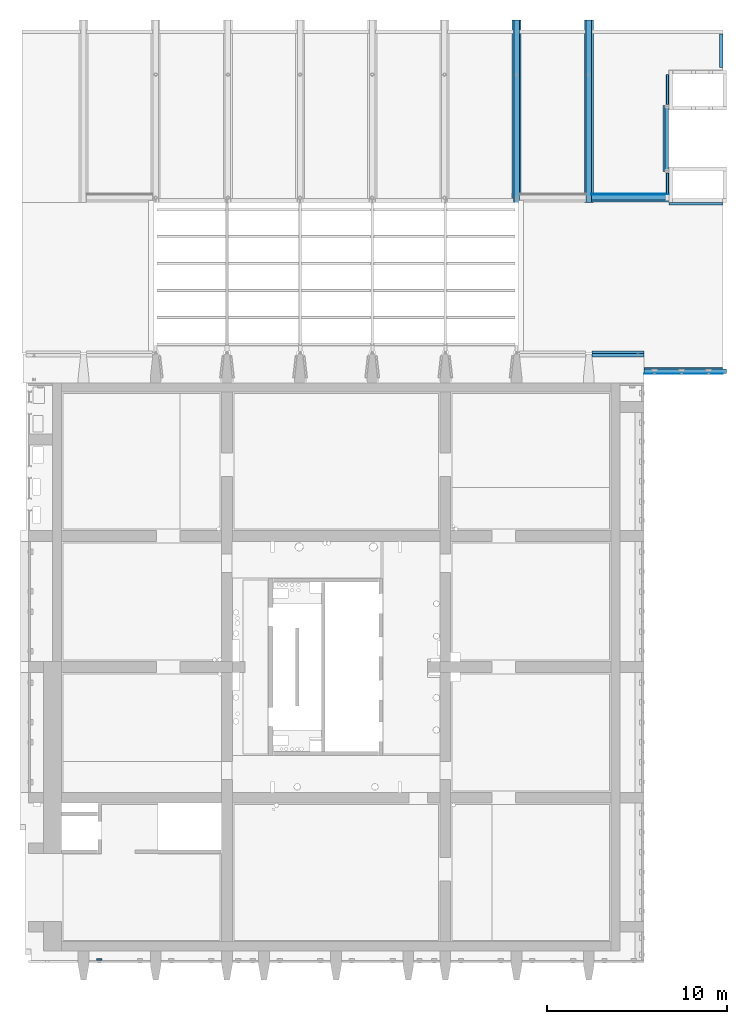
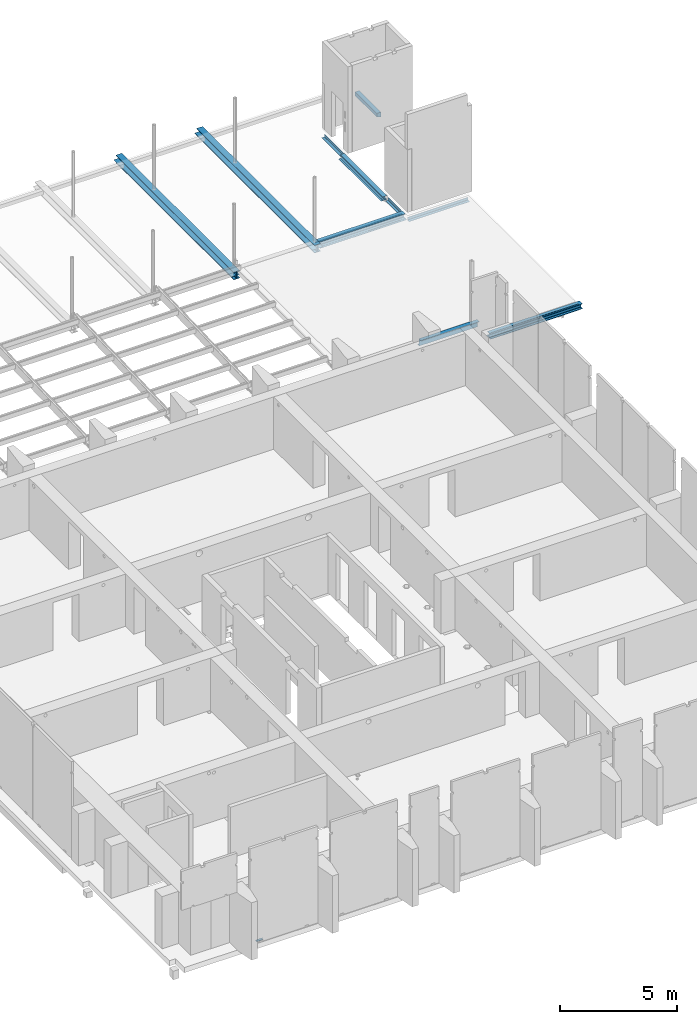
# One storey, part 14 of 31: 14 beams.
"""IFC2X3 building model written with IfcOpenShell, lengths in millimetres."""

from ifc_helpers import new_model, entity, si_unit, converted_unit, derived_unit, direction, frame, frame_2d, origin, origin_2d_with_axis, place, context, subcontext, project, spatial, polyline, circle_curve, parameter, trimmed, segment, composite_curve, rectangle, i_section, outline, extrude, source, transform, mapped, material, type_object, type_shapes, element, save


model = new_model("IFC2X3")

# Units and contexts
model_context = context("Model", 3, precision=0.01, world=origin(), true_north=direction((6.12303176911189e-17, 1.0)))
body_context = subcontext(model_context, "Body", "Model", "MODEL_VIEW")
ifc_project = project(units=[si_unit("LENGTHUNIT", "METRE", prefix="MILLI"), si_unit("AREAUNIT", "SQUARE_METRE"), si_unit("VOLUMEUNIT", "CUBIC_METRE"), converted_unit("PLANEANGLEUNIT", "DEGREE", entity("IfcRatioMeasure", 0.0174532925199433), si_unit("PLANEANGLEUNIT", "RADIAN"), dimensions=[0, 0, 0, 0, 0, 0, 0]), si_unit("MASSUNIT", "GRAM", prefix="KILO"), derived_unit("MASSDENSITYUNIT", [(si_unit("MASSUNIT", "GRAM", prefix="KILO"), 1), (si_unit("LENGTHUNIT", "METRE"), -3)]), si_unit("TIMEUNIT", "SECOND"), si_unit("FREQUENCYUNIT", "HERTZ"), si_unit("THERMODYNAMICTEMPERATUREUNIT", "DEGREE_CELSIUS"), derived_unit("THERMALTRANSMITTANCEUNIT", [(si_unit("MASSUNIT", "GRAM", prefix="KILO"), 1), (si_unit("THERMODYNAMICTEMPERATUREUNIT", "KELVIN"), -1), (si_unit("TIMEUNIT", "SECOND"), -3)]), derived_unit("VOLUMETRICFLOWRATEUNIT", [(si_unit("LENGTHUNIT", "METRE"), 3), (si_unit("TIMEUNIT", "SECOND"), -1)]), si_unit("ELECTRICCURRENTUNIT", "AMPERE"), si_unit("ELECTRICVOLTAGEUNIT", "VOLT"), si_unit("POWERUNIT", "WATT"), si_unit("FORCEUNIT", "NEWTON", prefix="KILO"), si_unit("ILLUMINANCEUNIT", "LUX"), si_unit("LUMINOUSFLUXUNIT", "LUMEN"), si_unit("LUMINOUSINTENSITYUNIT", "CANDELA"), derived_unit("USERDEFINED", [(si_unit("MASSUNIT", "GRAM", prefix="KILO"), -1), (si_unit("LENGTHUNIT", "METRE"), -2), (si_unit("TIMEUNIT", "SECOND"), 3), (si_unit("LUMINOUSFLUXUNIT", "LUMEN"), 1)]), derived_unit("LINEARVELOCITYUNIT", [(si_unit("LENGTHUNIT", "METRE"), 1), (si_unit("TIMEUNIT", "SECOND"), -1)]), si_unit("PRESSUREUNIT", "PASCAL"), derived_unit("USERDEFINED", [(si_unit("LENGTHUNIT", "METRE"), -2), (si_unit("MASSUNIT", "GRAM", prefix="KILO"), 1), (si_unit("TIMEUNIT", "SECOND"), -2)])], contexts=[model_context])

# Site, building, storey
site_placement = place(None, origin())
site = spatial("IfcSite", under=ifc_project, at=site_placement, Name="Default", CompositionType="ELEMENT")
building_placement = place(site_placement, origin())
building = spatial("IfcBuilding", under=site, at=building_placement, Name="niet gebruiken", CompositionType="ELEMENT")
storey_placement = place(building_placement, frame((0.0, 0.0, 12000.0)))
storey = spatial("IfcBuildingStorey", under=building, at=storey_placement, Name="03 derde verdieping", CompositionType="ELEMENT", Elevation=12000.0)

# Beams
ifc_material_1 = material(Name="NLRS_h2_staal")
beam_type_1 = type_object("IfcBeamType", Name="ligger HEB 400", PredefinedType="BEAM", material=ifc_material_1)
shared_shape_1 = source(origin(), body_context, "Body", "SweptSolid", [
    extrude(outline(polyline([(-6608.33333333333, -128.833333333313), (3491.66666666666, -128.833333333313), (3491.66666666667, 14.4166666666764), (3116.66666666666, 14.4166666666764), (3116.66666666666, 114.416666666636), (-6608.33333333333, 114.416666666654), (-6608.33333333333, -128.833333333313)])), frame((151885.583333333, 46741.6666666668, 13120.0), z_axis=(0.0, 0.0, 1.0), x_axis=(0.0, -1.0, 0.0)), (0.0, 0.0, 1.0), 15.0000000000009),
    extrude(rectangle(XDim=10100.0, YDim=243.249999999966, at=frame_2d((4.54747350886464e-12, 1.73230318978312e-11), x_axis=(1.0, 0.0))), frame((151621.625, 48300.0, 13120.0), z_axis=(0.0, 0.0, 1.0), x_axis=(0.0, -1.0, 0.0)), (0.0, 0.0, 1.0), 14.9999999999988),
    extrude(outline(composite_curve([segment(polyline([(-150.0, -176.0), (-150.0, -200.0)]), True, "CONTINUOUS"), segment(polyline([(-150.0, -200.0), (150.0, -200.0)]), True, "CONTINUOUS"), segment(polyline([(150.0, -200.0), (150.0, -176.0)]), True, "CONTINUOUS"), segment(polyline([(150.0, -176.0), (33.7499999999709, -176.0)]), True, "CONTINUOUS"), segment(trimmed(circle_curve(frame_2d((33.7499999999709, -149.0), x_axis=(-1.0, 0.0)), 27.0), [parameter(2.54444374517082e-13)], [parameter(90.0000000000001)], True, "PARAMETER"), False, "CONTINUOUS"), segment(polyline([(6.74999999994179, -149.0), (6.74999999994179, 149.0)]), True, "CONTINUOUS"), segment(trimmed(circle_curve(frame_2d((33.7499999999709, 149.0), x_axis=(0.0, 1.0)), 27.0), [parameter(3.05333249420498e-13)], [parameter(90.0000000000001)], True, "PARAMETER"), False, "CONTINUOUS"), segment(polyline([(33.7499999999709, 176.0), (150.0, 176.0)]), True, "CONTINUOUS"), segment(polyline([(150.0, 176.0), (150.0, 200.0)]), True, "CONTINUOUS"), segment(polyline([(150.0, 200.0), (-150.0, 200.0)]), True, "CONTINUOUS"), segment(polyline([(-150.0, 200.0), (-150.0, 176.0)]), True, "CONTINUOUS"), segment(polyline([(-150.0, 176.0), (-33.7500000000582, 176.0)]), True, "CONTINUOUS"), segment(trimmed(circle_curve(frame_2d((-33.7500000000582, 149.0), x_axis=(1.0, 0.0)), 27.0), [parameter(0.0)], [parameter(90.0000000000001)], True, "PARAMETER"), False, "CONTINUOUS"), segment(polyline([(-6.7500000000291, 149.0), (-6.7500000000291, -149.0)]), True, "CONTINUOUS"), segment(trimmed(circle_curve(frame_2d((-33.7500000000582, -149.0), x_axis=(0.0, -1.0)), 27.0), [parameter(5.08888749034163e-14)], [parameter(90.0000000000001)], True, "PARAMETER"), False, "CONTINUOUS"), segment(polyline([(-33.7500000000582, -176.0), (-150.0, -176.0)]), True, "CONTINUOUS")], self_intersect=False)), frame((151750.0, 43250.0, 13140.0), z_axis=(0.0, -1.0, 0.0), x_axis=(-1.0, 0.0, 0.0)), (0.0, 0.0, -1.0), 10100.0),
])
type_shapes(beam_type_1, [shared_shape_1])
beam_1_placement = place(storey_placement, frame((0.0, 0.0, -12000.0)))
element("IfcBeam", 1, at=beam_1_placement, inside=storey, type_object=beam_type_1, material=ifc_material_1, Name="NLRS_28.11_SF_WPB_stalen ligger HEB met stripstaal_gen:ligger HEB 400", ObjectType="ligger HEB 400", context=body_context, shape_type="MappedRepresentation", body=[
    mapped(shared_shape_1, transform((0.0, 0.0, 0.0), scale=1.0)),
])
beam_type_2 = type_object("IfcBeamType", Name="ligger HEB 400", PredefinedType="BEAM", material=ifc_material_1)
shared_shape_2 = source(origin(), body_context, "Body", "SweptSolid", [
    extrude(rectangle(XDim=10100.0, YDim=243.249999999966, at=frame_2d((-4.54747350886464e-12, -8.66151594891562e-12), x_axis=(1.0, 0.0))), frame((155878.375, 48300.0, 13120.0), z_axis=(0.0, 0.0, 1.0), x_axis=(0.0, -1.0, 0.0)), (0.0, 0.0, 1.0), 15.0000000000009),
    extrude(rectangle(XDim=10100.0, YDim=243.249999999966, at=frame_2d((-4.54747350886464e-12, 0.0), x_axis=(1.0, 0.0))), frame((155621.625, 48300.0, 13120.0), z_axis=(0.0, 0.0, 1.0), x_axis=(0.0, -1.0, 0.0)), (0.0, 0.0, 1.0), 14.9999999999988),
    extrude(outline(composite_curve([segment(polyline([(-150.0, -176.0), (-150.0, -200.0)]), True, "CONTINUOUS"), segment(polyline([(-150.0, -200.0), (150.0, -200.0)]), True, "CONTINUOUS"), segment(polyline([(150.0, -200.0), (150.0, -176.0)]), True, "CONTINUOUS"), segment(polyline([(150.0, -176.0), (33.7500000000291, -176.0)]), True, "CONTINUOUS"), segment(trimmed(circle_curve(frame_2d((33.7500000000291, -149.0), x_axis=(-1.0, 0.0)), 27.0), [parameter(2.54444374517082e-13)], [parameter(90.0000000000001)], True, "PARAMETER"), False, "CONTINUOUS"), segment(polyline([(6.7500000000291, -149.0), (6.7500000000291, 149.0)]), True, "CONTINUOUS"), segment(trimmed(circle_curve(frame_2d((33.7500000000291, 149.0), x_axis=(0.0, 1.0)), 27.0), [parameter(3.05333249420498e-13)], [parameter(90.0000000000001)], True, "PARAMETER"), False, "CONTINUOUS"), segment(polyline([(33.7500000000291, 176.0), (150.0, 176.0)]), True, "CONTINUOUS"), segment(polyline([(150.0, 176.0), (150.0, 200.0)]), True, "CONTINUOUS"), segment(polyline([(150.0, 200.0), (-150.0, 200.0)]), True, "CONTINUOUS"), segment(polyline([(-150.0, 200.0), (-150.0, 176.0)]), True, "CONTINUOUS"), segment(polyline([(-150.0, 176.0), (-33.7499999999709, 176.0)]), True, "CONTINUOUS"), segment(trimmed(circle_curve(frame_2d((-33.7499999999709, 149.0), x_axis=(1.0, 0.0)), 27.0), [parameter(0.0)], [parameter(90.0000000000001)], True, "PARAMETER"), False, "CONTINUOUS"), segment(polyline([(-6.7499999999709, 149.0), (-6.7499999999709, -149.0)]), True, "CONTINUOUS"), segment(trimmed(circle_curve(frame_2d((-33.7499999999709, -149.0), x_axis=(0.0, -1.0)), 27.0), [parameter(5.08888749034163e-14)], [parameter(90.0000000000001)], True, "PARAMETER"), False, "CONTINUOUS"), segment(polyline([(-33.7499999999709, -176.0), (-150.0, -176.0)]), True, "CONTINUOUS")], self_intersect=False)), frame((155750.0, 43250.0, 13140.0), z_axis=(0.0, -1.0, 0.0), x_axis=(-1.0, 0.0, 0.0)), (0.0, 0.0, -1.0), 10100.0),
])
type_shapes(beam_type_2, [shared_shape_2])
beam_2_placement = place(storey_placement, frame((0.0, 0.0, -12000.0)))
element("IfcBeam", 2, at=beam_2_placement, inside=storey, type_object=beam_type_2, material=ifc_material_1, Name="NLRS_28.11_SF_WPB_stalen ligger HEB met stripstaal_gen:ligger HEB 400", ObjectType="ligger HEB 400", context=body_context, shape_type="MappedRepresentation", body=[
    mapped(shared_shape_2, transform((0.0, 0.0, 0.0), scale=1.0)),
])
beam_type_3 = type_object("IfcBeamType", Name="NLRS_28.11_SF_WPB_stalen ligger HEA_gen:ligger HEA 200", PredefinedType="BEAM")
beam_3_placement = place(storey_placement, frame((160060.0, 48600.0, 1230.0), z_axis=(0.0, 0.0, 1.0), x_axis=(0.0, -1.0, 0.0)))
element("IfcBeam", 3, at=beam_3_placement, inside=storey, type_object=beam_type_3, material=ifc_material_1, Name="NLRS_28.11_SF_WPB_stalen ligger HEA_gen:ligger HEA 200", ObjectType="NLRS_28.11_SF_WPB_stalen ligger HEA_gen:ligger HEA 200", context=body_context, shape_type="SweptSolid", body=[
    extrude(i_section(OverallWidth=200.000000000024, OverallDepth=190.0, WebThickness=6.49999999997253, FlangeThickness=9.99999999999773, FilletRadius=17.9999999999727, at=frame_2d((0.0, 3.46531692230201e-11), x_axis=(0.0, 1.0))), frame((0.0, 0.0, 0.0), z_axis=(1.0, 0.0, 0.0), x_axis=(0.0, 0.0, -1.0)), (0.0, 0.0, 1.0), 3650.0),
])
beam_type_4 = type_object("IfcBeamType", Name="NLRS_28.11_SF_WPB_stalen ligger hoekprofiel gelijkzijdig_gen:ligger gelijzijdig hoekprofiel LEQU_150x150x15", PredefinedType="BEAM")
beam_4_placement = place(storey_placement, frame((163179.9, 43207.5, 1140.0), z_axis=(0.0, 0.0, 1.0), x_axis=(-1.0, 0.0, 0.0)))
element("IfcBeam", 4, at=beam_4_placement, inside=storey, type_object=beam_type_4, material=ifc_material_1, Name="NLRS_28.11_SF_WPB_stalen ligger hoekprofiel gelijkzijdig_gen:ligger gelijzijdig hoekprofiel LEQU_150x150x15", ObjectType="NLRS_28.11_SF_WPB_stalen ligger hoekprofiel gelijkzijdig_gen:ligger gelijzijdig hoekprofiel LEQU_150x150x15", context=body_context, shape_type="SweptSolid", body=[
    extrude(outline(composite_curve([segment(polyline([(-93.3333333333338, -56.6666666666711), (56.6666666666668, -56.6666666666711)]), True, "CONTINUOUS"), segment(polyline([(56.6666666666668, -56.6666666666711), (56.6666666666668, 93.3333333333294)]), True, "CONTINUOUS"), segment(polyline([(56.6666666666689, 93.3333333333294), (49.6666666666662, 93.3333333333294)]), True, "CONTINUOUS"), segment(trimmed(circle_curve(frame_2d((49.6666666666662, 85.3333333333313), x_axis=(0.0, 1.0)), 7.9999999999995), [parameter(0.0)], [parameter(90.0000000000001)], True, "PARAMETER"), True, "CONTINUOUS"), segment(polyline([(41.6666666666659, 85.3333333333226), (41.6666666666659, -25.6666666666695)]), True, "CONTINUOUS"), segment(trimmed(circle_curve(frame_2d((25.6666666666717, -25.6666666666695), x_axis=(1.0, 0.0)), 15.999999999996), [parameter(269.999999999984)], [parameter(0.0)], True, "PARAMETER"), False, "CONTINUOUS"), segment(polyline([(25.6666666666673, -41.6666666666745), (-85.3333333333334, -41.6666666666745)]), True, "CONTINUOUS"), segment(trimmed(circle_curve(frame_2d((-85.3333333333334, -49.6666666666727), x_axis=(0.0, 1.0)), 7.9999999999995), [parameter(0.0)], [parameter(90.0000000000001)], True, "PARAMETER"), True, "CONTINUOUS"), segment(polyline([(-93.3333333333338, -49.6666666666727), (-93.3333333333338, -56.6666666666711)]), True, "CONTINUOUS")], self_intersect=False)), frame((0.0, 14.1666666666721, -18.3333333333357), z_axis=(1.0, 0.0, 0.0), x_axis=(0.0, 0.0, -1.0)), (0.0, 0.0, 1.0), 2989.89999999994),
])
beam_5_placement = place(storey_placement, frame((160147.5, 50340.0, 1195.0), z_axis=(0.0, 0.0, 1.0), x_axis=(0.0, -1.0, 0.0)))
element("IfcBeam", 5, at=beam_5_placement, inside=storey, type_object=beam_type_4, material=ifc_material_1, Name="NLRS_28.11_SF_WPB_stalen ligger hoekprofiel gelijkzijdig_gen:ligger gelijzijdig hoekprofiel LEQU_150x150x15", ObjectType="NLRS_28.11_SF_WPB_stalen ligger hoekprofiel gelijkzijdig_gen:ligger gelijzijdig hoekprofiel LEQU_150x150x15", context=body_context, shape_type="SweptSolid", body=[
    extrude(outline(composite_curve([segment(polyline([(49.6666666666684, -93.3333333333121), (56.6666666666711, -93.3333333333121)]), True, "CONTINUOUS"), segment(polyline([(56.6666666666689, -93.3333333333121), (56.6666666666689, 56.6666666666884)]), True, "CONTINUOUS"), segment(polyline([(56.6666666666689, 56.6666666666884), (-93.3333333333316, 56.6666666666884)]), True, "CONTINUOUS"), segment(polyline([(-93.3333333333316, 56.6666666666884), (-93.3333333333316, 49.6666666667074)]), True, "CONTINUOUS"), segment(trimmed(circle_curve(frame_2d((-85.3333333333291, 49.6666666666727), x_axis=(-1.0, 0.0)), 8.00000000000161), [parameter(0.0)], [parameter(89.9999999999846)], True, "PARAMETER"), True, "CONTINUOUS"), segment(polyline([(-85.3333333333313, 41.6666666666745), (25.6666666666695, 41.6666666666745)]), True, "CONTINUOUS"), segment(trimmed(circle_curve(frame_2d((25.6666666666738, 25.6666666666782), x_axis=(0.0, 1.0)), 15.9999999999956), [parameter(269.999999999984)], [parameter(0.0)], True, "PARAMETER"), False, "CONTINUOUS"), segment(polyline([(41.666666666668, 25.6666666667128), (41.666666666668, -85.3333333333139)]), True, "CONTINUOUS"), segment(trimmed(circle_curve(frame_2d((49.6666666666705, -85.3333333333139), x_axis=(-1.0, 0.0)), 8.00000000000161), [parameter(0.0)], [parameter(89.9999999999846)], True, "PARAMETER"), True, "CONTINUOUS")], self_intersect=False)), frame((10.0, -14.1666666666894, -18.3333333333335), z_axis=(1.0, 0.0, 0.0), x_axis=(0.0, 0.0, -1.0)), (0.0, 0.0, 1.0), 1660.0),
])
beam_6_placement = place(storey_placement, frame((160147.5, 44890.0, 1195.0), z_axis=(0.0, 0.0, 1.0), x_axis=(0.0, -1.0, 0.0)))
element("IfcBeam", 6, at=beam_6_placement, inside=storey, type_object=beam_type_4, material=ifc_material_1, Name="NLRS_28.11_SF_WPB_stalen ligger hoekprofiel gelijkzijdig_gen:ligger gelijzijdig hoekprofiel LEQU_150x150x15", ObjectType="NLRS_28.11_SF_WPB_stalen ligger hoekprofiel gelijkzijdig_gen:ligger gelijzijdig hoekprofiel LEQU_150x150x15", context=body_context, shape_type="SweptSolid", body=[
    extrude(outline(composite_curve([segment(polyline([(49.666666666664, -93.3333333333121), (56.6666666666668, -93.3333333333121)]), True, "CONTINUOUS"), segment(polyline([(56.6666666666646, -93.3333333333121), (56.6666666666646, 56.6666666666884)]), True, "CONTINUOUS"), segment(polyline([(56.6666666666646, 56.6666666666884), (-93.3333333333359, 56.6666666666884)]), True, "CONTINUOUS"), segment(polyline([(-93.3333333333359, 56.6666666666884), (-93.3333333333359, 49.6666666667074)]), True, "CONTINUOUS"), segment(trimmed(circle_curve(frame_2d((-85.3333333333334, 49.6666666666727), x_axis=(-1.0, 0.0)), 8.00000000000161), [parameter(0.0)], [parameter(89.9999999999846)], True, "PARAMETER"), True, "CONTINUOUS"), segment(polyline([(-85.3333333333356, 41.6666666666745), (25.6666666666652, 41.6666666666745)]), True, "CONTINUOUS"), segment(trimmed(circle_curve(frame_2d((25.6666666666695, 25.6666666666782), x_axis=(0.0, 1.0)), 15.9999999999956), [parameter(269.999999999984)], [parameter(0.0)], True, "PARAMETER"), False, "CONTINUOUS"), segment(polyline([(41.6666666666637, 25.6666666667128), (41.6666666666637, -85.3333333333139)]), True, "CONTINUOUS"), segment(trimmed(circle_curve(frame_2d((49.6666666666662, -85.3333333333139), x_axis=(-1.0, 0.0)), 8.00000000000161), [parameter(0.0)], [parameter(89.9999999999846)], True, "PARAMETER"), True, "CONTINUOUS")], self_intersect=False)), frame((10.0, -14.1666666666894, -18.3333333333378), z_axis=(1.0, 0.0, 0.0), x_axis=(0.0, 0.0, -1.0)), (0.0, 0.0, 1.0), 1135.0),
])
beam_type_5 = type_object("IfcBeamType", Name="NLRS_28.11_SF_WPB_stalen ligger Z-profiel_gen_BSc:ligger Z-profiel 200/15x355/15x150/15", PredefinedType="BEAM")
beam_7_placement = place(storey_placement, frame((158800.0, 34857.5, 1257.5), z_axis=(0.0, 0.0, 1.0), x_axis=(-1.0, 0.0, 0.0)))
element("IfcBeam", 7, at=beam_7_placement, inside=storey, type_object=beam_type_5, material=ifc_material_1, Name="NLRS_28.11_SF_WPB_stalen ligger Z-profiel_gen_BSc:ligger Z-profiel 200/15x355/15x150/15", ObjectType="NLRS_28.11_SF_WPB_stalen ligger Z-profiel_gen_BSc:ligger Z-profiel 200/15x355/15x150/15", context=body_context, shape_type="SweptSolid", body=[
    extrude(outline(polyline([(177.500000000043, -155.0), (192.500000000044, -155.0), (192.500000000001, -5.0), (-177.500000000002, -5.0), (-177.500000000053, 180.0), (-192.500000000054, 180.0), (-192.499999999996, -20.0), (177.500000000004, -20.0), (177.500000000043, -155.0)])), frame((0.0, 12.5000000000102, 0.0), z_axis=(1.0, 0.0, 0.0), x_axis=(0.0, 0.0, -1.0)), (0.0, 0.0, 1.0), 2879.99999999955),
])
beam_type_6 = type_object("IfcBeamType", Name="ligger stripstaal RECT_290x10", PredefinedType="BEAM", material=ifc_material_1)
shared_shape_3 = source(origin(), body_context, "Body", "SweptSolid", [
    extrude(rectangle(XDim=3649.99999999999, YDim=290.0, at=origin_2d_with_axis()), frame((0.0, 0.0, -5.0), z_axis=(0.0, 0.0, 1.0), x_axis=(-1.0, 0.0, 0.0)), (0.0, 0.0, 1.0), 9.99999999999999),
    extrude(rectangle(XDim=3649.99999999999, YDim=290.0, at=origin_2d_with_axis()), frame((0.0, 0.0, -5.0), z_axis=(0.0, 0.0, 1.0), x_axis=(-1.0, 0.0, 0.0)), (0.0, 0.0, 1.0), 9.99999999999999),
])
type_shapes(beam_type_6, [shared_shape_3])
beam_8_placement = place(storey_placement, frame((160015.0, 46775.0, 1130.0), z_axis=(0.0, 0.0, 1.0), x_axis=(0.0, -1.0, 0.0)))
element("IfcBeam", 8, at=beam_8_placement, inside=storey, type_object=beam_type_6, material=ifc_material_1, Name="NLRS_28.11_SF_WPB_stalen ligger stripstaal_gen:ligger stripstaal RECT_290x10", ObjectType="ligger stripstaal RECT_290x10", context=body_context, shape_type="MappedRepresentation", body=[
    mapped(shared_shape_3, transform((0.0, 0.0, 0.0), scale=1.0)),
])
ifc_material_2 = material(Name="NLRS_f2_beton prefab")
beam_type_7 = type_object("IfcBeamType", Name="NLRS_28.11_SF_WPB_oplegnok prefabbeton_gen:200x250 slope", PredefinedType="BEAM")
beam_9_placement = place(storey_placement, frame((163090.0, 52580.0, 1130.0), z_axis=(0.0, 0.0, 1.0), x_axis=(0.0, -1.0, 0.0)))
element("IfcBeam", 9, at=beam_9_placement, inside=storey, type_object=beam_type_7, material=ifc_material_2, Name="NLRS_28.11_SF_WPB_oplegnok prefabbeton_gen:200x250 slope", ObjectType="NLRS_28.11_SF_WPB_oplegnok prefabbeton_gen:200x250 slope", context=body_context, shape_type="SweptSolid", body=[
    extrude(outline(polyline([(-111.602540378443, -100.0), (84.8076211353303, -100.0), (138.397459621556, 100.0), (-111.602540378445, 100.0), (-111.602540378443, -100.0)])), frame((0.0, 0.0, -111.602540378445), z_axis=(1.0, 0.0, 0.0), x_axis=(0.0, 0.0, -1.0)), (0.0, 0.0, 1.0), 1860.00000000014),
])
beam_type_8 = type_object("IfcBeamType", Name="ligger SFB260 HE260B+355x12", PredefinedType="BEAM", material=ifc_material_1)
shared_shape_4 = source(origin(), body_context, "Body", "SweptSolid", [
    extrude(rectangle(XDim=4355.00000000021, YDim=355.000000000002, at=frame_2d((-1.75077730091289e-11, 2.1600499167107e-12), x_axis=(1.0, 0.0))), frame((160992.5, 33924.5, 13068.0)), (0.0, 0.0, 1.0), 12.0000000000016),
    extrude(outline(composite_curve([segment(polyline([(-130.0, -112.5), (-130.0, -130.0)]), True, "CONTINUOUS"), segment(polyline([(-130.0, -130.0), (130.0, -130.0)]), True, "CONTINUOUS"), segment(polyline([(130.0, -130.0), (130.0, -112.5)]), True, "CONTINUOUS"), segment(polyline([(130.0, -112.5), (29.0, -112.5)]), True, "CONTINUOUS"), segment(trimmed(circle_curve(frame_2d((29.0, -88.5), x_axis=(-1.0, 0.0)), 24.0), [parameter(3.56222124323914e-13)], [parameter(90.0000000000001)], True, "PARAMETER"), False, "CONTINUOUS"), segment(polyline([(5.0, -88.5), (5.0, 88.5000000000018)]), True, "CONTINUOUS"), segment(trimmed(circle_curve(frame_2d((29.0, 88.4999999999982), x_axis=(0.0, 1.0)), 24.0), [parameter(3.56222124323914e-13)], [parameter(90.0000000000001)], True, "PARAMETER"), False, "CONTINUOUS"), segment(polyline([(29.0, 112.5), (130.0, 112.5)]), True, "CONTINUOUS"), segment(polyline([(130.0, 112.5), (130.0, 130.0)]), True, "CONTINUOUS"), segment(polyline([(130.0, 130.0), (-130.0, 130.0)]), True, "CONTINUOUS"), segment(polyline([(-130.0, 130.0), (-130.0, 112.5)]), True, "CONTINUOUS"), segment(polyline([(-130.0, 112.5), (-29.0, 112.5)]), True, "CONTINUOUS"), segment(trimmed(circle_curve(frame_2d((-29.0, 88.4999999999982), x_axis=(1.0, 0.0)), 24.0), [parameter(0.0)], [parameter(90.0000000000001)], True, "PARAMETER"), False, "CONTINUOUS"), segment(polyline([(-5.0, 88.4999999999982), (-5.0, -88.5)]), True, "CONTINUOUS"), segment(trimmed(circle_curve(frame_2d((-29.0, -88.5), x_axis=(0.0, -1.0)), 24.0), [parameter(0.0)], [parameter(90.0000000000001)], True, "PARAMETER"), False, "CONTINUOUS"), segment(polyline([(-29.0, -112.5), (-130.0, -112.5)]), True, "CONTINUOUS")], self_intersect=False)), frame((158815.0, 33877.0, 13210.0), z_axis=(-1.0, 0.0, 0.0), x_axis=(0.0, 1.0, 0.0)), (0.0, 0.0, -1.0), 4555.00000000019),
])
type_shapes(beam_type_8, [shared_shape_4])
beam_10_placement = place(storey_placement, frame((0.0, 0.0, -12000.0)))
element("IfcBeam", 10, at=beam_10_placement, inside=storey, type_object=beam_type_8, material=ifc_material_1, Name="NLRS_28.11_SF_WPB_stalen ligger SFB_gen_BSc:ligger SFB260 HE260B+355x12", ObjectType="ligger SFB260 HE260B+355x12", context=body_context, shape_type="MappedRepresentation", body=[
    mapped(shared_shape_4, transform((0.0, 0.0, 0.0), scale=1.0)),
])
beam_type_9 = type_object("IfcBeamType", Name="ligger stripstaal RECT_70x5", PredefinedType="BEAM", material=ifc_material_1)
shared_shape_5 = source(origin(), body_context, "Body", "SweptSolid", [
    extrude(rectangle(XDim=4355.00000000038, YDim=4.99999999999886, at=origin_2d_with_axis()), frame((160992.5, 33749.5, 13340.0)), (0.0, 0.0, 1.0), 69.9999999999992),
    extrude(rectangle(XDim=4355.00000000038, YDim=4.99999999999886, at=origin_2d_with_axis()), frame((160992.5, 33749.5, 13340.0)), (0.0, 0.0, 1.0), 69.9999999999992),
])
type_shapes(beam_type_9, [shared_shape_5])
beam_11_placement = place(storey_placement, frame((0.0, 0.0, -12000.0)))
element("IfcBeam", 11, at=beam_11_placement, inside=storey, type_object=beam_type_9, material=ifc_material_1, Name="NLRS_28.11_SF_WPB_stalen ligger stripstaal_gen:ligger stripstaal RECT_70x5", ObjectType="ligger stripstaal RECT_70x5", context=body_context, shape_type="MappedRepresentation", body=[
    mapped(shared_shape_5, transform((0.0, 0.0, 0.0), scale=1.0)),
])
beam_type_10 = type_object("IfcBeamType", Name="NLRS_28.11_SF_WPB_stalen ligger hoekprofiel gelijkzijdig_gen:ligger gelijzijdig hoekprofiel LEQU_50x50x5", PredefinedType="BEAM")
beam_12_placement = place(storey_placement, frame((160170.0, 43700.0, 1115.96), z_axis=(0.0, 0.0, 1.0), x_axis=(-1.0, 0.0, 0.0)))
element("IfcBeam", 12, at=beam_12_placement, inside=storey, type_object=beam_type_10, material=ifc_material_1, Name="NLRS_28.11_SF_WPB_stalen ligger hoekprofiel gelijkzijdig_gen:ligger gelijzijdig hoekprofiel LEQU_50x50x5", ObjectType="NLRS_28.11_SF_WPB_stalen ligger hoekprofiel gelijkzijdig_gen:ligger gelijzijdig hoekprofiel LEQU_50x50x5", context=body_context, shape_type="SweptSolid", body=[
    extrude(outline(composite_curve([segment(polyline([(-18.8888888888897, -18.8888888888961), (31.1111111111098, -18.8888888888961)]), True, "CONTINUOUS"), segment(polyline([(31.111111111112, -18.8888888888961), (31.1111111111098, -17.3888888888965)]), True, "CONTINUOUS"), segment(trimmed(circle_curve(frame_2d((27.6111111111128, -17.3888888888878), x_axis=(1.0, 0.0)), 3.4999999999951), [parameter(0.0)], [parameter(90.000000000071)], True, "PARAMETER"), True, "CONTINUOUS"), segment(polyline([(27.6111111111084, -13.8888888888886), (-6.88888888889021, -13.8888888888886)]), True, "CONTINUOUS"), segment(trimmed(circle_curve(frame_2d((-6.88888888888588, -6.88888888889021), x_axis=(0.0, -1.0)), 7.00000000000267), [parameter(270.000000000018)], [parameter(0.0)], True, "PARAMETER"), False, "CONTINUOUS"), segment(polyline([(-13.8888888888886, -6.88888888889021), (-13.8888888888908, 27.6111111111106)]), True, "CONTINUOUS"), segment(trimmed(circle_curve(frame_2d((-17.3888888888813, 27.6111111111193), x_axis=(1.0, 0.0)), 3.49999999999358), [parameter(0.0)], [parameter(90.0000000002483)], True, "PARAMETER"), True, "CONTINUOUS"), segment(polyline([(-17.3888888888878, 31.1111111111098), (-18.8888888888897, 31.1111111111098)]), True, "CONTINUOUS"), segment(polyline([(-18.8888888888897, 31.1111111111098), (-18.8888888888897, -18.8888888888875)]), True, "CONTINUOUS")], self_intersect=False)), frame((0.0, -6.11111111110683, -4.84888888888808), z_axis=(1.0, 0.0, 0.0), x_axis=(0.0, 0.0, -1.0)), (0.0, 0.0, 1.0), 4269.99999999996),
])
beam_type_11 = type_object("IfcBeamType", Name="ligger SFB250 HE260A+450x12", PredefinedType="BEAM", material=ifc_material_1)
shared_shape_6 = source(origin(), body_context, "Body", "SweptSolid", [
    extrude(rectangle(XDim=4269.99999999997, YDim=450.000000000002, at=origin_2d_with_axis()), frame((158035.0, 43500.0, 13068.0), z_axis=(0.0, 0.0, 1.0), x_axis=(-1.0, 0.0, 0.0)), (0.0, 0.0, 1.0), 11.9999999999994),
    extrude(outline(composite_curve([segment(polyline([(-130.0, -112.500000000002), (-130.0, -125.0)]), True, "CONTINUOUS"), segment(polyline([(-130.0, -125.0), (130.0, -125.0)]), True, "CONTINUOUS"), segment(polyline([(130.0, -125.0), (130.0, -112.500000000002)]), True, "CONTINUOUS"), segment(polyline([(130.0, -112.500000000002), (27.7499999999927, -112.500000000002)]), True, "CONTINUOUS"), segment(trimmed(circle_curve(frame_2d((27.7499999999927, -88.5000000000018), x_axis=(1.0, 0.0)), 24.0), [parameter(180.000000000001)], [parameter(270.0)], True, "PARAMETER"), False, "CONTINUOUS"), segment(polyline([(3.75, -88.5000000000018), (3.75, 88.5)]), True, "CONTINUOUS"), segment(trimmed(circle_curve(frame_2d((27.7499999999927, 88.4999999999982), x_axis=(1.0, 0.0)), 24.0), [parameter(90.0000000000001)], [parameter(180.0)], True, "PARAMETER"), False, "CONTINUOUS"), segment(polyline([(27.7499999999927, 112.499999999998), (130.0, 112.499999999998)]), True, "CONTINUOUS"), segment(polyline([(130.0, 112.499999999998), (130.0, 125.0)]), True, "CONTINUOUS"), segment(polyline([(130.0, 125.0), (-130.0, 125.0)]), True, "CONTINUOUS"), segment(polyline([(-130.0, 125.0), (-130.0, 112.499999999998)]), True, "CONTINUOUS"), segment(polyline([(-130.0, 112.499999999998), (-27.75, 112.499999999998)]), True, "CONTINUOUS"), segment(trimmed(circle_curve(frame_2d((-27.75, 88.4999999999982), x_axis=(1.0, 0.0)), 24.0), [parameter(3.56222124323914e-13)], [parameter(90.0000000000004)], True, "PARAMETER"), False, "CONTINUOUS"), segment(polyline([(-3.75000000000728, 88.4999999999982), (-3.75000000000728, -88.5000000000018)]), True, "CONTINUOUS"), segment(trimmed(circle_curve(frame_2d((-27.75, -88.5000000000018), x_axis=(1.0, 0.0)), 24.0), [parameter(270.0)], [parameter(3.56222124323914e-13)], True, "PARAMETER"), False, "CONTINUOUS"), segment(polyline([(-27.75, -112.500000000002), (-130.0, -112.500000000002)]), True, "CONTINUOUS")], self_intersect=False)), frame((155900.0, 43500.0, 13205.0), z_axis=(-1.0, 0.0, 0.0), x_axis=(0.0, 1.0, 0.0)), (0.0, 0.0, -1.0), 4269.99999999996),
])
type_shapes(beam_type_11, [shared_shape_6])
beam_13_placement = place(storey_placement, frame((0.0, 0.0, -12000.0)))
element("IfcBeam", 13, at=beam_13_placement, inside=storey, type_object=beam_type_11, material=ifc_material_1, Name="NLRS_28.11_SF_WPB_stalen ligger SFB_gen:ligger SFB250 HE260A+450x12", ObjectType="ligger SFB250 HE260A+450x12", context=body_context, shape_type="MappedRepresentation", body=[
    mapped(shared_shape_6, transform((0.0, 0.0, 0.0), scale=1.0)),
])
beam_type_12 = type_object("IfcBeamType", Name="NLRS_28.11_SF_WPB_stalen ligger hoekprofiel gelijkzijdig_gen:ligger gelijzijdig hoekprofiel LEQU_120x120x12_!", PredefinedType="BEAM")
beam_14_placement = place(storey_placement, frame((128470.0, 1254.0, 30.0)))
element("IfcBeam", 14, at=beam_14_placement, inside=storey, type_object=beam_type_12, material=ifc_material_1, Name="NLRS_28.11_SF_WPB_stalen ligger hoekprofiel gelijkzijdig_gen:ligger gelijzijdig hoekprofiel LEQU_120x120x12_!", ObjectType="NLRS_28.11_SF_WPB_stalen ligger hoekprofiel gelijkzijdig_gen:ligger gelijzijdig hoekprofiel LEQU_120x120x12_!", context=body_context, shape_type="SweptSolid", body=[
    extrude(outline(composite_curve([segment(polyline([(-75.5555555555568, -44.444444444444), (44.444444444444, -44.444444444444)]), True, "CONTINUOUS"), segment(polyline([(44.444444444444, -44.4444444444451), (44.4444444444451, 75.5555555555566)]), True, "CONTINUOUS"), segment(polyline([(44.4444444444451, 75.5555555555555), (40.4444444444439, 75.5555555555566)]), True, "CONTINUOUS"), segment(trimmed(circle_curve(frame_2d((40.444444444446, 69.5555555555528), x_axis=(0.0, 1.0)), 6.00000000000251), [parameter(0.0)], [parameter(89.9999999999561)], True, "PARAMETER"), True, "CONTINUOUS"), segment(polyline([(34.444444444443, 69.5555555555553), (34.4444444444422, -22.4444444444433)]), True, "CONTINUOUS"), segment(trimmed(circle_curve(frame_2d((22.4444444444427, -22.4444444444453), x_axis=(1.0, 0.0)), 11.9999999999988), [parameter(269.999999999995)], [parameter(0.0)], True, "PARAMETER"), False, "CONTINUOUS"), segment(polyline([(22.4444444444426, -34.4444444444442), (-69.5555555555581, -34.4444444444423)]), True, "CONTINUOUS"), segment(trimmed(circle_curve(frame_2d((-69.5555555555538, -40.4444444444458), x_axis=(0.0, 1.0)), 6.00000000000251), [parameter(0.0)], [parameter(89.9999999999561)], True, "PARAMETER"), True, "CONTINUOUS"), segment(polyline([(-75.5555555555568, -40.4444444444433), (-75.5555555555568, -44.444444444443)]), True, "CONTINUOUS")], self_intersect=False)), frame((0.0, 24.4444444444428, -75.5555555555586), z_axis=(1.0, 0.0, 0.0), x_axis=(0.0, 0.0, -1.0)), (0.0, 0.0, 1.0), 300.000000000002),
])

save(model, "model.ifc")
